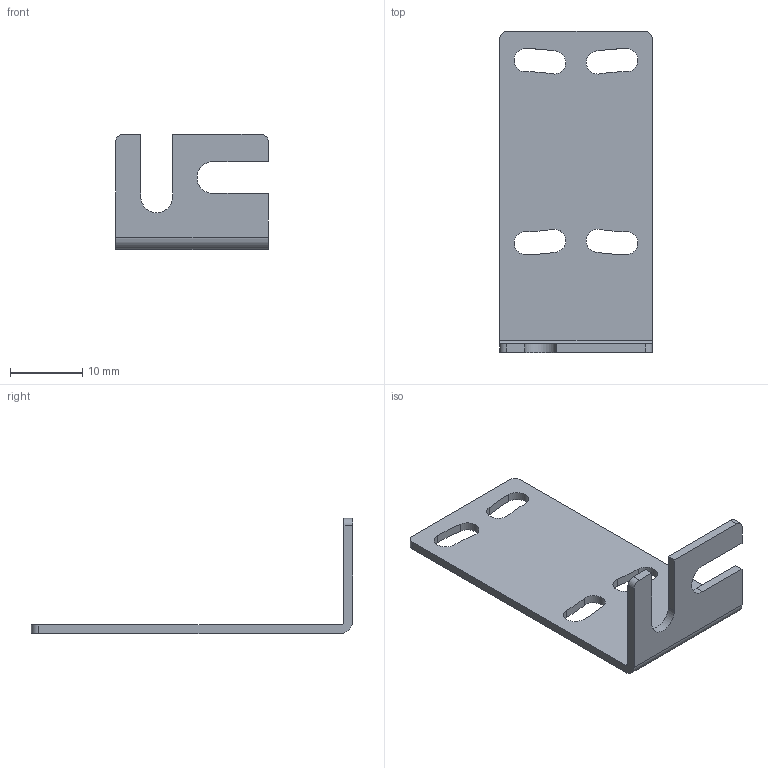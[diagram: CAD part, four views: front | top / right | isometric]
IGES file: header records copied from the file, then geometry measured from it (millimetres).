
Start section: Elysium IGES Interface
Global section: file name: G:\nisimura\X89_W100_Re\3D_Model\BEF-W100-B.igs; native system: SolidDesigner 15.00A  14-Mar-2007; preprocessor: OneSpace IGES_3D V2.2; author: Unknown; organization: Unknown; date: 20090706.205051; units: millimetre
Bounding box: 21.2 x 44.6 x 16 mm (x, y, z)
Volume: 1293.3 mm3; surface area: 2478 mm2
Topology: 1 solids, 1 shells, 38 faces, 108 edges, 72 vertices
Faces by surface type: bspline 38
